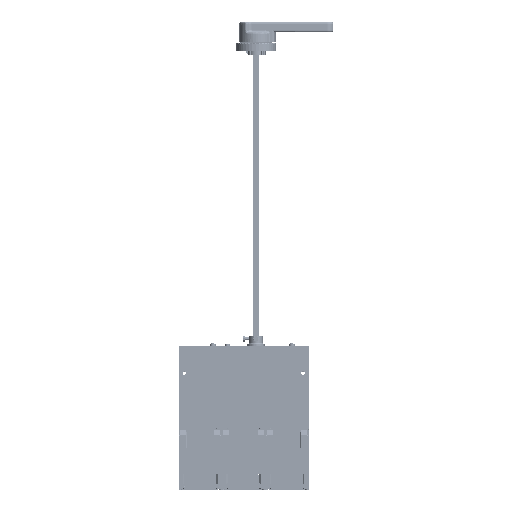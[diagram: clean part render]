
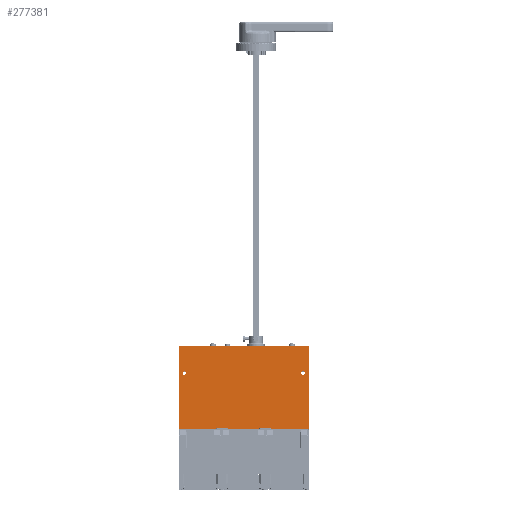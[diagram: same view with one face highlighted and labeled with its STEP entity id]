
A CAD part, front view. The second image highlights one B-rep face of the part: STEP entity #277381.
In plain terms, the highlighted planar face has unit normal (0, -1, 0).
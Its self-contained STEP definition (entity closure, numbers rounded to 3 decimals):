
#4868 = EDGE_CURVE ( 'NONE', #273509, #102031, #77746, .T. ) ;
#12744 = CARTESIAN_POINT ( 'NONE',  ( 595.185, 219.154, 58.986 ) ) ;
#12976 = CARTESIAN_POINT ( 'NONE',  ( 462.185, 219.154, -34.264 ) ) ;
#14153 = LINE ( 'NONE', #232441, #172975 ) ;
#15104 = VERTEX_POINT ( 'NONE', #284560 ) ;
#15905 = ORIENTED_EDGE ( 'NONE', *, *, #242263, .T. ) ;
#18551 = LINE ( 'NONE', #114619, #198096 ) ;
#18779 = ORIENTED_EDGE ( 'NONE', *, *, #308101, .T. ) ;
#25796 = CARTESIAN_POINT ( 'NONE',  ( 403.185, 219.154, 53.486 ) ) ;
#26825 = ORIENTED_EDGE ( 'NONE', *, *, #4868, .F. ) ;
#33238 = AXIS2_PLACEMENT_3D ( 'NONE', #59816, #244175, #214633 ) ;
#33506 = DIRECTION ( 'NONE',  ( 0., 0., -1. ) ) ;
#35586 = EDGE_CURVE ( 'NONE', #174104, #104141, #167253, .T. ) ;
#39094 = CARTESIAN_POINT ( 'NONE',  ( 536.185, 219.154, -32.264 ) ) ;
#46041 = FACE_BOUND ( 'NONE', #228728, .T. ) ;
#46587 = VERTEX_POINT ( 'NONE', #54824 ) ;
#49625 = EDGE_CURVE ( 'NONE', #102031, #273509, #269119, .T. ) ;
#51797 = CARTESIAN_POINT ( 'NONE',  ( 604.185, 219.154, 100.736 ) ) ;
#52029 = VECTOR ( 'NONE', #100187, 1000. ) ;
#52564 = CARTESIAN_POINT ( 'NONE',  ( 403.185, 219.154, 56.236 ) ) ;
#52802 = CIRCLE ( 'NONE', #150195, 2.75 ) ;
#54824 = CARTESIAN_POINT ( 'NONE',  ( 473.685, 219.154, -32.264 ) ) ;
#59034 = VECTOR ( 'NONE', #266591, 1000. ) ;
#59816 = CARTESIAN_POINT ( 'NONE',  ( 403.185, 219.154, 56.236 ) ) ;
#61786 = VECTOR ( 'NONE', #328112, 1000. ) ;
#62055 = VERTEX_POINT ( 'NONE', #260736 ) ;
#64652 = VERTEX_POINT ( 'NONE', #12976 ) ;
#66269 = FACE_OUTER_BOUND ( 'NONE', #166626, .T. ) ;
#69716 = VECTOR ( 'NONE', #206487, 1000. ) ;
#75339 = VECTOR ( 'NONE', #196640, 1000. ) ;
#77214 = EDGE_CURVE ( 'NONE', #146382, #64652, #165971, .T. ) ;
#77746 = CIRCLE ( 'NONE', #101433, 2.75 ) ;
#78852 = VECTOR ( 'NONE', #164163, 1000. ) ;
#79714 = CARTESIAN_POINT ( 'NONE',  ( 595.185, 219.154, 53.486 ) ) ;
#80906 = DIRECTION ( 'NONE',  ( 0., -1., 0. ) ) ;
#94041 = ORIENTED_EDGE ( 'NONE', *, *, #275029, .F. ) ;
#100187 = DIRECTION ( 'NONE',  ( 0., 0., -1. ) ) ;
#101433 = AXIS2_PLACEMENT_3D ( 'NONE', #123714, #306086, #127102 ) ;
#102031 = VERTEX_POINT ( 'NONE', #79714 ) ;
#103419 = CARTESIAN_POINT ( 'NONE',  ( 394.185, 219.154, -34.264 ) ) ;
#103742 = DIRECTION ( 'NONE',  ( 1., 0., 0. ) ) ;
#104141 = VERTEX_POINT ( 'NONE', #25796 ) ;
#106139 = EDGE_CURVE ( 'NONE', #104141, #174104, #52802, .T. ) ;
#106152 = CARTESIAN_POINT ( 'NONE',  ( 428.185, 219.154, -32.264 ) ) ;
#111524 = EDGE_CURVE ( 'NONE', #336948, #224276, #250623, .T. ) ;
#114619 = CARTESIAN_POINT ( 'NONE',  ( 536.185, 219.154, -34.264 ) ) ;
#120517 = VERTEX_POINT ( 'NONE', #193999 ) ;
#123714 = CARTESIAN_POINT ( 'NONE',  ( 595.185, 219.154, 56.236 ) ) ;
#126530 = DIRECTION ( 'NONE',  ( 1., 0., 0. ) ) ;
#127102 = DIRECTION ( 'NONE',  ( 0., 0., -1. ) ) ;
#130517 = VERTEX_POINT ( 'NONE', #39094 ) ;
#131187 = VECTOR ( 'NONE', #33506, 1000. ) ;
#133224 = ORIENTED_EDGE ( 'NONE', *, *, #49625, .F. ) ;
#135400 = FACE_BOUND ( 'NONE', #207642, .T. ) ;
#137701 = ORIENTED_EDGE ( 'NONE', *, *, #275522, .F. ) ;
#137993 = VERTEX_POINT ( 'NONE', #158831 ) ;
#138437 = DIRECTION ( 'NONE',  ( 1., 0., 0. ) ) ;
#138974 = CARTESIAN_POINT ( 'NONE',  ( 394.185, 219.154, 100.736 ) ) ;
#142852 = LINE ( 'NONE', #240637, #131187 ) ;
#146382 = VERTEX_POINT ( 'NONE', #282594 ) ;
#148342 = LINE ( 'NONE', #138974, #59034 ) ;
#149786 = DIRECTION ( 'NONE',  ( -1., 0., 0. ) ) ;
#150195 = AXIS2_PLACEMENT_3D ( 'NONE', #52564, #80906, #290456 ) ;
#156736 = VECTOR ( 'NONE', #209278, 1000. ) ;
#158831 = CARTESIAN_POINT ( 'NONE',  ( 473.685, 219.154, -34.264 ) ) ;
#158962 = ORIENTED_EDGE ( 'NONE', *, *, #111524, .F. ) ;
#164163 = DIRECTION ( 'NONE',  ( 0., 0., -1. ) ) ;
#165971 = LINE ( 'NONE', #203994, #52029 ) ;
#166626 = EDGE_LOOP ( 'NONE', ( #158962, #247925, #190176, #245822, #212507, #15905, #190382, #304886, #137701, #18779, #220152, #94041 ) ) ;
#167253 = CIRCLE ( 'NONE', #33238, 2.75 ) ;
#167822 = AXIS2_PLACEMENT_3D ( 'NONE', #261969, #288276, #263117 ) ;
#170342 = CARTESIAN_POINT ( 'NONE',  ( 536.185, 219.154, 100.736 ) ) ;
#172975 = VECTOR ( 'NONE', #126530, 1000. ) ;
#173038 = ORIENTED_EDGE ( 'NONE', *, *, #106139, .F. ) ;
#174104 = VERTEX_POINT ( 'NONE', #248956 ) ;
#181892 = EDGE_CURVE ( 'NONE', #46587, #146382, #190363, .T. ) ;
#182859 = EDGE_CURVE ( 'NONE', #336948, #202538, #148342, .T. ) ;
#190176 = ORIENTED_EDGE ( 'NONE', *, *, #228344, .T. ) ;
#190363 = LINE ( 'NONE', #280836, #272047 ) ;
#190382 = ORIENTED_EDGE ( 'NONE', *, *, #246445, .T. ) ;
#193999 = CARTESIAN_POINT ( 'NONE',  ( 604.185, 219.154, -34.264 ) ) ;
#196640 = DIRECTION ( 'NONE',  ( 0., 0., -1. ) ) ;
#198096 = VECTOR ( 'NONE', #138437, 1000. ) ;
#202538 = VERTEX_POINT ( 'NONE', #103419 ) ;
#203994 = CARTESIAN_POINT ( 'NONE',  ( 462.185, 219.154, 100.736 ) ) ;
#206487 = DIRECTION ( 'NONE',  ( -1., 0., 0. ) ) ;
#206915 = CARTESIAN_POINT ( 'NONE',  ( 536.185, 219.154, -34.264 ) ) ;
#207541 = CARTESIAN_POINT ( 'NONE',  ( 394.185, 219.154, 100.736 ) ) ;
#207642 = EDGE_LOOP ( 'NONE', ( #133224, #26825 ) ) ;
#209278 = DIRECTION ( 'NONE',  ( 1., 0., 0. ) ) ;
#212507 = ORIENTED_EDGE ( 'NONE', *, *, #181892, .F. ) ;
#214381 = DIRECTION ( 'NONE',  ( 1., 0., 0. ) ) ;
#214633 = DIRECTION ( 'NONE',  ( 0., 0., -1. ) ) ;
#220152 = ORIENTED_EDGE ( 'NONE', *, *, #322815, .T. ) ;
#222797 = CARTESIAN_POINT ( 'NONE',  ( 394.185, 219.154, 100.736 ) ) ;
#224276 = VERTEX_POINT ( 'NONE', #51797 ) ;
#228344 = EDGE_CURVE ( 'NONE', #202538, #64652, #14153, .T. ) ;
#228728 = EDGE_LOOP ( 'NONE', ( #173038, #328524 ) ) ;
#232441 = CARTESIAN_POINT ( 'NONE',  ( 394.185, 219.154, -34.264 ) ) ;
#233168 = CARTESIAN_POINT ( 'NONE',  ( 473.685, 219.154, 100.736 ) ) ;
#235925 = VECTOR ( 'NONE', #214381, 1000. ) ;
#240637 = CARTESIAN_POINT ( 'NONE',  ( 473.685, 219.154, 100.736 ) ) ;
#242263 = EDGE_CURVE ( 'NONE', #46587, #137993, #142852, .T. ) ;
#244175 = DIRECTION ( 'NONE',  ( 0., -1., 0. ) ) ;
#245822 = ORIENTED_EDGE ( 'NONE', *, *, #77214, .F. ) ;
#246445 = EDGE_CURVE ( 'NONE', #137993, #15104, #272609, .T. ) ;
#247925 = ORIENTED_EDGE ( 'NONE', *, *, #182859, .T. ) ;
#248956 = CARTESIAN_POINT ( 'NONE',  ( 403.185, 219.154, 58.986 ) ) ;
#249979 = LINE ( 'NONE', #290717, #78852 ) ;
#250623 = LINE ( 'NONE', #233168, #156736 ) ;
#260736 = CARTESIAN_POINT ( 'NONE',  ( 524.685, 219.154, -32.264 ) ) ;
#261969 = CARTESIAN_POINT ( 'NONE',  ( 595.185, 219.154, 56.236 ) ) ;
#263117 = DIRECTION ( 'NONE',  ( 0., 0., -1. ) ) ;
#266067 = AXIS2_PLACEMENT_3D ( 'NONE', #207541, #312366, #103742 ) ;
#266591 = DIRECTION ( 'NONE',  ( 0., 0., -1. ) ) ;
#269119 = CIRCLE ( 'NONE', #167822, 2.75 ) ;
#272047 = VECTOR ( 'NONE', #149786, 1000. ) ;
#272609 = LINE ( 'NONE', #294154, #235925 ) ;
#273509 = VERTEX_POINT ( 'NONE', #12744 ) ;
#275029 = EDGE_CURVE ( 'NONE', #224276, #120517, #249979, .T. ) ;
#275522 = EDGE_CURVE ( 'NONE', #130517, #62055, #289686, .T. ) ;
#277381 = ADVANCED_FACE ( 'NONE', ( #66269, #46041, #135400 ), #284928, .F. ) ;
#280836 = CARTESIAN_POINT ( 'NONE',  ( 428.185, 219.154, -32.264 ) ) ;
#282594 = CARTESIAN_POINT ( 'NONE',  ( 462.185, 219.154, -32.264 ) ) ;
#284560 = CARTESIAN_POINT ( 'NONE',  ( 524.685, 219.154, -34.264 ) ) ;
#284928 = PLANE ( 'NONE',  #266067 ) ;
#288276 = DIRECTION ( 'NONE',  ( 0., -1., 0. ) ) ;
#289686 = LINE ( 'NONE', #106152, #69716 ) ;
#290456 = DIRECTION ( 'NONE',  ( 0., 0., -1. ) ) ;
#290717 = CARTESIAN_POINT ( 'NONE',  ( 604.185, 219.154, 100.736 ) ) ;
#294154 = CARTESIAN_POINT ( 'NONE',  ( 473.685, 219.154, -34.264 ) ) ;
#296330 = CARTESIAN_POINT ( 'NONE',  ( 524.685, 219.154, 100.736 ) ) ;
#299616 = LINE ( 'NONE', #170342, #75339 ) ;
#304886 = ORIENTED_EDGE ( 'NONE', *, *, #308997, .F. ) ;
#306086 = DIRECTION ( 'NONE',  ( 0., -1., 0. ) ) ;
#308101 = EDGE_CURVE ( 'NONE', #130517, #331769, #299616, .T. ) ;
#308997 = EDGE_CURVE ( 'NONE', #62055, #15104, #330679, .T. ) ;
#312366 = DIRECTION ( 'NONE',  ( 0., 1., 0. ) ) ;
#322815 = EDGE_CURVE ( 'NONE', #331769, #120517, #18551, .T. ) ;
#328112 = DIRECTION ( 'NONE',  ( 0., 0., -1. ) ) ;
#328524 = ORIENTED_EDGE ( 'NONE', *, *, #35586, .F. ) ;
#330679 = LINE ( 'NONE', #296330, #61786 ) ;
#331769 = VERTEX_POINT ( 'NONE', #206915 ) ;
#336948 = VERTEX_POINT ( 'NONE', #222797 ) ;
